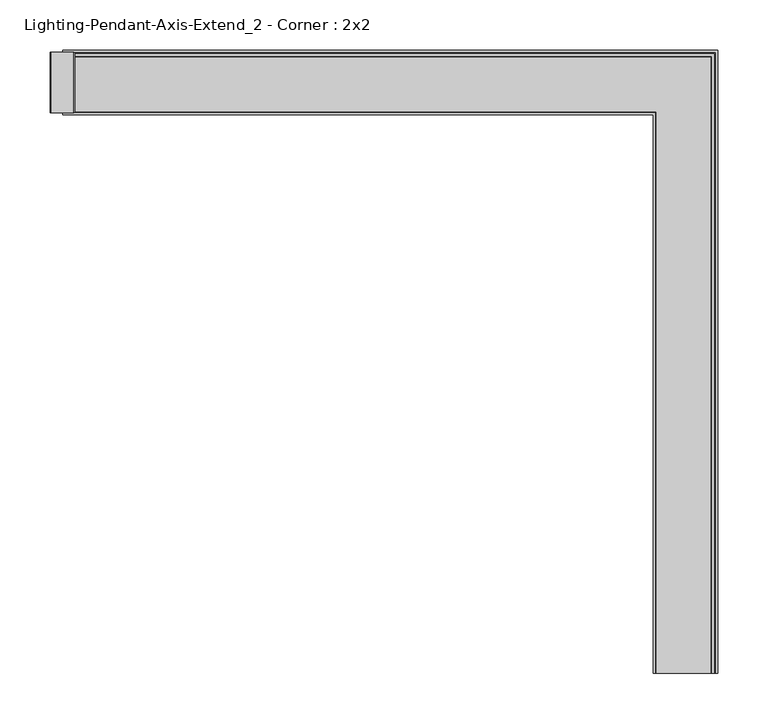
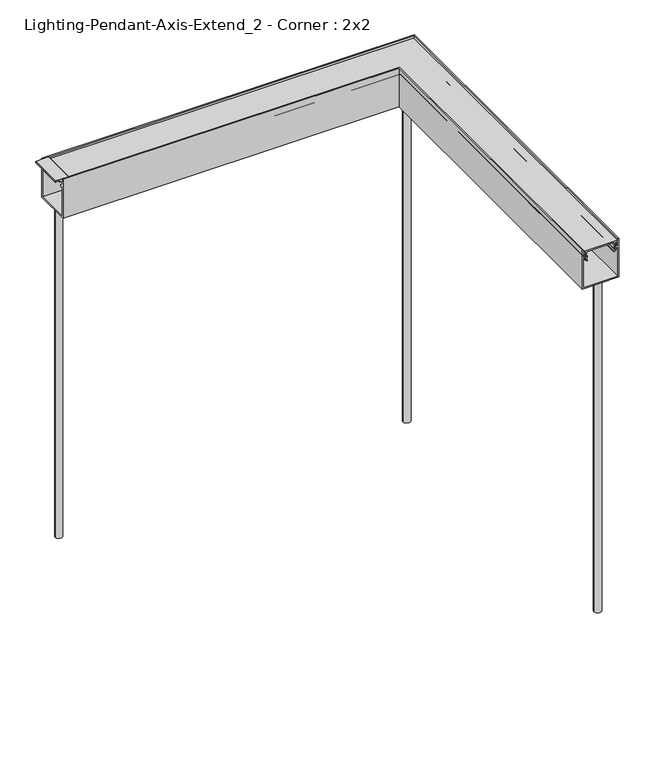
"""IFC4 building model written with IfcOpenShell, lengths in millimetres: light fixture geometry, Lighting-Pendant-Axis-Extend_2 - Corner : 2x2."""

from ifc_helpers import new_model, si_unit, frame, origin, place, context, project, spatial, polyline, circle_curve, ellipse_curve, outline, extrude, source, transform, mapped, element, save
from ifc_brep_helpers import plane_surface, cylinder_surface, revolved_surface, advanced_brep


def lighting_pendant_axis_extend_2_corner_2x2_d5f9903d(model_context):
    return source(origin(), model_context, "Body", "SolidModel", [
        advanced_brep(
        [(311.15, -577.596, 609.6), (298.45, -577.596, 609.6), (304.8, -577.596, 609.6), (311.15, -577.596, 0.0), (298.45, -577.596, 0.0), (304.8, -577.596, 0.0)],
        [
            (0, 1, circle_curve(frame((304.8, -577.596, 609.6), z_axis=(0.0, 0.0, 1.0), x_axis=(-1.0, 0.0, 0.0)), 6.35)),
            (1, 2),
            (2, 0),
            (1, 0, circle_curve(frame((304.8, -577.596, 609.6), z_axis=(0.0, 0.0, 1.0), x_axis=(-1.0, 0.0, 0.0)), 6.35)),
            (3, 4, circle_curve(frame((304.8, -577.596, 0.0), z_axis=(0.0, 0.0, 1.0), x_axis=(-1.0, 0.0, 0.0)), 6.35)),
            (4, 1),
            (0, 3),
            (4, 3, circle_curve(frame((304.8, -577.596, 0.0), z_axis=(0.0, 0.0, 1.0), x_axis=(-1.0, 0.0, 0.0)), 6.35)),
            (5, 4),
            (3, 5),
        ],
        [
            plane_surface(frame((304.8, -577.596, 609.6), z_axis=(0.0, 0.0, 1.0), x_axis=(-1.0, 0.0, 0.0))),
            cylinder_surface(frame((304.8, -577.596, 2913.8581012), z_axis=(0.0, 0.0, -1.0), x_axis=(-1.0, 0.0, 0.0)), 6.35),
            plane_surface(frame((304.8, -577.596, 0.0), z_axis=(0.0, 0.0, -1.0), x_axis=(-1.0, 0.0, 0.0))),
        ],
        [
            (0, [[1, 2, 3]]),
            (0, [[4, -3, -2]]),
            (1, [[5, 6, -1, 7]]),
            (1, [[8, -7, -4, -6]]),
            (2, [[9, -5, 10]]),
            (2, [[-10, -8, -9]]),
        ],
    ),
        extrude(outline(polyline([(679.9357861, -301.8536), (681.0375, -302.7781437), (681.0375, -325.1352563), (679.9357861, -326.0598), (678.46575, -326.0598), (678.46575, -325.26605), (679.2595, -325.26605), (679.2595, -318.7954), (676.4532981, -318.7954), (676.4532981, -309.118), (679.2595, -309.118), (679.2595, -302.64735), (678.46575, -302.64735), (678.46575, -301.8536), (679.9357861, -301.8536)])), frame((0.0, -29.972, 0.0), z_axis=(0.0, 1.0, 0.0), x_axis=(0.0, 0.0, 1.0)), (0.0, 0.0, 1.0), 59.944),
        advanced_brep(
        [(311.15, 0.0, 609.6), (298.45, 0.0, 609.6), (304.8, 0.0, 609.6), (311.15, 0.0, 0.0), (298.45, 0.0, 0.0), (304.8, 0.0, 0.0)],
        [
            (0, 1, circle_curve(frame((304.8, 0.0, 609.6), z_axis=(0.0, 0.0, 1.0), x_axis=(-1.0, 0.0, 0.0)), 6.35)),
            (1, 2),
            (2, 0),
            (1, 0, circle_curve(frame((304.8, 0.0, 609.6), z_axis=(0.0, 0.0, 1.0), x_axis=(-1.0, 0.0, 0.0)), 6.35)),
            (3, 4, circle_curve(frame((304.8, 0.0, 0.0), z_axis=(0.0, 0.0, 1.0), x_axis=(-1.0, 0.0, 0.0)), 6.35)),
            (4, 1),
            (0, 3),
            (4, 3, circle_curve(frame((304.8, 0.0, 0.0), z_axis=(0.0, 0.0, 1.0), x_axis=(-1.0, 0.0, 0.0)), 6.35)),
            (5, 4),
            (3, 5),
        ],
        [
            plane_surface(frame((304.8, 0.0, 609.6), z_axis=(0.0, 0.0, 1.0), x_axis=(-1.0, 0.0, 0.0))),
            cylinder_surface(frame((304.8, 0.0, 2913.8581012), z_axis=(0.0, 0.0, -1.0), x_axis=(-1.0, 0.0, 0.0)), 6.35),
            plane_surface(frame((304.8, 0.0, 0.0), z_axis=(0.0, 0.0, -1.0), x_axis=(-1.0, 0.0, 0.0))),
        ],
        [
            (0, [[1, 2, 3]]),
            (0, [[4, -3, -2]]),
            (1, [[5, 6, -1, 7]]),
            (1, [[8, -7, -4, -6]]),
            (2, [[9, -5, 10]]),
            (2, [[-10, -8, -9]]),
        ],
    ),
        advanced_brep(
        [(-296.672, 0.0, 609.6), (-309.372, 0.0, 609.6), (-303.022, 0.0, 609.6), (-296.672, 0.0, 0.0), (-309.372, 0.0, 0.0), (-303.022, 0.0, 0.0)],
        [
            (0, 1, circle_curve(frame((-303.022, 0.0, 609.6), z_axis=(0.0, 0.0, 1.0), x_axis=(-1.0, 0.0, 0.0)), 6.35)),
            (1, 2),
            (2, 0),
            (1, 0, circle_curve(frame((-303.022, 0.0, 609.6), z_axis=(0.0, 0.0, 1.0), x_axis=(-1.0, 0.0, 0.0)), 6.35)),
            (3, 4, circle_curve(frame((-303.022, 0.0, 0.0), z_axis=(0.0, 0.0, 1.0), x_axis=(-1.0, 0.0, 0.0)), 6.35)),
            (4, 1),
            (0, 3),
            (4, 3, circle_curve(frame((-303.022, 0.0, 0.0), z_axis=(0.0, 0.0, 1.0), x_axis=(-1.0, 0.0, 0.0)), 6.35)),
            (5, 4),
            (3, 5),
        ],
        [
            plane_surface(frame((-303.022, 0.0, 609.6), z_axis=(0.0, 0.0, 1.0), x_axis=(-1.0, 0.0, 0.0))),
            cylinder_surface(frame((-303.022, 0.0, 2913.8581012), z_axis=(0.0, 0.0, -1.0), x_axis=(-1.0, 0.0, 0.0)), 6.35),
            plane_surface(frame((-303.022, 0.0, 0.0), z_axis=(0.0, 0.0, -1.0), x_axis=(-1.0, 0.0, 0.0))),
        ],
        [
            (0, [[1, 2, 3]]),
            (0, [[4, -3, -2]]),
            (1, [[5, 6, -1, 7]]),
            (1, [[8, -7, -4, -6]]),
            (2, [[9, -5, 10]]),
            (2, [[-10, -8, -9]]),
        ],
    ),
        advanced_brep(
        [(-304.8, -24.1727262, 676.1479991), (-304.8, -24.5114181, 669.6853737), (-304.8, -25.3818814, 663.0794903), (-304.8, -24.5665956, 661.5817575), (-304.8, -23.2119066, 660.3823555), (-304.8, -24.192808, 659.0543369), (-304.8, -25.7659952, 660.4471908), (-304.8, -27.1108807, 664.27776), (-304.8, -25.4753941, 668.3169658), (-304.8, -26.1394859, 670.1661789), (-304.8, -25.825992, 676.1479991), (-304.8, -28.829, 676.1479991), (-304.8, -28.829, 678.053), (-304.8, 28.829, 678.053), (-304.8, 28.829, 676.1479991), (-304.8, 25.825992, 676.1479991), (-304.8, 26.1394859, 670.1661789), (-304.8, 25.4753941, 668.3169658), (-304.8, 27.1108807, 664.27776), (-304.8, 25.7659952, 660.4471908), (-304.8, 24.192808, 659.0543369), (-304.8, 23.2119066, 660.3823555), (-304.8, 24.5665956, 661.5817575), (-304.8, 25.3818814, 663.0794903), (-304.8, 24.5114181, 669.6853737), (-304.8, 24.1727262, 676.1479991), (280.6272738, -586.7527, 676.1479991), (328.9727262, -586.7527, 676.1479991), (329.3114181, -586.7527, 669.6853737), (330.1818814, -586.7527, 663.0794903), (329.3665956, -586.7527, 661.5817575), (328.0119066, -586.7527, 660.3823555), (328.992808, -586.7527, 659.0543369), (330.5659952, -586.7527, 660.4471908), (331.9108807, -586.7527, 664.27776), (330.2753941, -586.7527, 668.3169658), (330.9394859, -586.7527, 670.1661789), (330.625992, -586.7527, 676.1479991), (333.629, -586.7527, 676.1479991), (333.629, -586.7527, 678.053), (275.971, -586.7527, 678.053), (275.971, -586.7527, 676.1479991), (278.974008, -586.7527, 676.1479991), (278.6605141, -586.7527, 670.1661789), (279.3246059, -586.7527, 668.3169658), (277.6891193, -586.7527, 664.27776), (279.0340048, -586.7527, 660.4471908), (280.607192, -586.7527, 659.0543369), (281.5880934, -586.7527, 660.3823555), (280.2334044, -586.7527, 661.5817575), (279.4181186, -586.7527, 663.0794903), (280.2885819, -586.7527, 669.6853737), (280.6272738, -24.1727262, 676.1479991), (280.2885819, -24.5114181, 669.6853737), (279.4181186, -25.3818814, 663.0794903), (280.2334044, -24.5665956, 661.5817575), (281.5880934, -23.2119066, 660.3823555), (280.607192, -24.192808, 659.0543369), (279.0340048, -25.7659952, 660.4471908), (277.6891193, -27.1108807, 664.27776), (279.3246059, -25.4753941, 668.3169658), (278.6605141, -26.1394859, 670.1661789), (278.974008, -25.825992, 676.1479991), (275.971, -28.829, 676.1479991), (275.971, -28.829, 678.053), (333.629, 28.829, 678.053), (333.629, 28.829, 676.1479991), (330.625992, 25.825992, 676.1479991), (330.9394859, 26.1394859, 670.1661789), (330.2753941, 25.4753941, 668.3169658), (331.9108807, 27.1108807, 664.27776), (330.5659952, 25.7659952, 660.4471908), (328.992808, 24.192808, 659.0543369), (328.0119066, 23.2119066, 660.3823555), (329.3665956, 24.5665956, 661.5817575), (330.1818814, 25.3818814, 663.0794903), (329.3114181, 24.5114181, 669.6853737), (328.9727262, 24.1727262, 676.1479991)],
        [
            (0, 1),
            (1, 2, circle_curve(frame((-304.8, -27.2542, 666.6865), z_axis=(-1.0, 0.0, 0.0), x_axis=(0.0, 0.6748971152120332, 0.7379118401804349)), 4.064)),
            (2, 3, circle_curve(frame((-304.8, -22.149344, 663.8683457), z_axis=(1.0, 0.0, 0.0), x_axis=(0.0, -0.9714904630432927, -0.23707863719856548)), 3.3274001)),
            (3, 4, circle_curve(frame((-304.8, -17.1303177, 668.6160708), z_axis=(1.0, 0.0, 0.0), x_axis=(0.0, -0.7264901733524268, -0.68717685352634)), 10.2362001)),
            (4, 5, circle_curve(frame((-304.8, -23.7023573, 659.7183462), z_axis=(-1.0, 0.0, 0.0), x_axis=(0.0, 0.5941256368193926, 0.8043722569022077)), 0.8255)),
            (5, 6, circle_curve(frame((-304.8, -17.1303169, 668.6160717), z_axis=(-1.0, 0.0, 0.0), x_axis=(0.0, -0.594125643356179, -0.8043722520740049)), 11.8872013)),
            (6, 7, circle_curve(frame((-304.8, -22.149344, 663.8683457), z_axis=(-1.0, 0.0, 0.0), x_axis=(0.0, -0.7264685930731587, -0.6871996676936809)), 4.9784001)),
            (7, 8, circle_curve(frame((-304.8, -27.2542, 666.6865), z_axis=(1.0, 0.0, 0.0), x_axis=(0.0, 0.05939464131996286, -0.9982345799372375)), 2.413)),
            (8, 9, circle_curve(frame((-304.8, -23.6029669, 670.0332456), z_axis=(-1.0, 0.0, 0.0), x_axis=(0.0, -0.7371760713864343, -0.675700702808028)), 2.54)),
            (9, 10),
            (10, 11),
            (11, 12),
            (12, 13),
            (13, 14),
            (14, 15),
            (15, 16),
            (16, 17, circle_curve(frame((-304.8, 23.6029669, 670.0332456), z_axis=(-1.0, 0.0, 0.0), x_axis=(0.0, 0.9986295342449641, 0.05233596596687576)), 2.54)),
            (17, 18, circle_curve(frame((-304.8, 27.2542, 666.6865), z_axis=(1.0, 0.0, 0.0), x_axis=(0.0, -0.7371760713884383, 0.6757007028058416)), 2.413)),
            (18, 19, circle_curve(frame((-304.8, 22.149344, 663.8683457), z_axis=(-1.0, 0.0, 0.0), x_axis=(0.0, 0.9966127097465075, 0.0822381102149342)), 4.9784001)),
            (19, 20, circle_curve(frame((-304.8, 17.1303169, 668.6160717), z_axis=(-1.0, 0.0, 0.0), x_axis=(0.0, 0.7264685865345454, -0.6871996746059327)), 11.8872013)),
            (20, 21, circle_curve(frame((-304.8, 23.7023573, 659.7183462), z_axis=(-1.0, 0.0, 0.0), x_axis=(0.0, 0.5941256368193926, -0.8043722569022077)), 0.8255)),
            (21, 22, circle_curve(frame((-304.8, 17.1303177, 668.6160708), z_axis=(1.0, 0.0, 0.0), x_axis=(0.0, 0.5941256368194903, -0.8043722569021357)), 10.2362001)),
            (22, 23, circle_curve(frame((-304.8, 22.149344, 663.8683457), z_axis=(1.0, 0.0, 0.0), x_axis=(0.0, 0.7265349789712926, -0.6871294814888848)), 3.3274001)),
            (23, 24, circle_curve(frame((-304.8, 27.2542, 666.6865), z_axis=(-1.0, 0.0, 0.0), x_axis=(0.0, -0.46070831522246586, -0.8875516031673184)), 4.064)),
            (24, 25),
            (25, 0),
            (26, 27),
            (27, 28),
            (28, 29, circle_curve(frame((332.0542, -586.7527, 666.6865), z_axis=(0.0, -1.0, 0.0), x_axis=(-0.46070831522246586, 0.0, -0.8875516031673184)), 4.064)),
            (29, 30, circle_curve(frame((326.949344, -586.7527, 663.8683457), z_axis=(0.0, 1.0, 0.0), x_axis=(0.7265349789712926, 0.0, -0.6871294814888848)), 3.3274001)),
            (30, 31, circle_curve(frame((321.9303177, -586.7527, 668.6160708), z_axis=(0.0, 1.0, 0.0), x_axis=(0.5941256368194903, 0.0, -0.8043722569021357)), 10.2362001)),
            (31, 32, circle_curve(frame((328.5023573, -586.7527, 659.7183462), z_axis=(0.0, -1.0, 0.0), x_axis=(0.5941256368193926, 0.0, -0.8043722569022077)), 0.8255)),
            (32, 33, circle_curve(frame((321.9303169, -586.7527, 668.6160717), z_axis=(0.0, -1.0, 0.0), x_axis=(0.7264685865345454, 0.0, -0.6871996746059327)), 11.8872013)),
            (33, 34, circle_curve(frame((326.949344, -586.7527, 663.8683457), z_axis=(0.0, -1.0, 0.0), x_axis=(0.9966127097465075, 0.0, 0.0822381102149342)), 4.9784001)),
            (34, 35, circle_curve(frame((332.0542, -586.7527, 666.6865), z_axis=(0.0, 1.0, 0.0), x_axis=(-0.7371760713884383, 0.0, 0.6757007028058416)), 2.413)),
            (35, 36, circle_curve(frame((328.4029669, -586.7527, 670.0332456), z_axis=(0.0, -1.0, 0.0), x_axis=(0.9986295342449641, 0.0, 0.05233596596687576)), 2.54)),
            (36, 37),
            (37, 38),
            (38, 39),
            (39, 40),
            (40, 41),
            (41, 42),
            (42, 43),
            (43, 44, circle_curve(frame((281.1970331, -586.7527, 670.0332456), z_axis=(0.0, -1.0, 0.0), x_axis=(-0.7371760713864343, 0.0, -0.675700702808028)), 2.54)),
            (44, 45, circle_curve(frame((277.5458, -586.7527, 666.6865), z_axis=(0.0, 1.0, 0.0), x_axis=(0.05939464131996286, 0.0, -0.9982345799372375)), 2.413)),
            (45, 46, circle_curve(frame((282.650656, -586.7527, 663.8683457), z_axis=(0.0, -1.0, 0.0), x_axis=(-0.7264685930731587, 0.0, -0.6871996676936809)), 4.9784001)),
            (46, 47, circle_curve(frame((287.6696831, -586.7527, 668.6160717), z_axis=(0.0, -1.0, 0.0), x_axis=(-0.594125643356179, 0.0, -0.8043722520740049)), 11.8872013)),
            (47, 48, circle_curve(frame((281.0976427, -586.7527, 659.7183462), z_axis=(0.0, -1.0, 0.0), x_axis=(0.5941256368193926, 0.0, 0.8043722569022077)), 0.8255)),
            (48, 49, circle_curve(frame((287.6696823, -586.7527, 668.6160708), z_axis=(0.0, 1.0, 0.0), x_axis=(-0.7264901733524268, 0.0, -0.68717685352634)), 10.2362001)),
            (49, 50, circle_curve(frame((282.650656, -586.7527, 663.8683457), z_axis=(0.0, 1.0, 0.0), x_axis=(-0.9714904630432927, 0.0, -0.23707863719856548)), 3.3274001)),
            (50, 51, circle_curve(frame((277.5458, -586.7527, 666.6865), z_axis=(0.0, -1.0, 0.0), x_axis=(0.6748971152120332, 0.0, 0.7379118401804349)), 4.064)),
            (51, 26),
            (0, 52),
            (52, 53),
            (53, 1),
            (53, 54, ellipse_curve(frame((277.5458, -27.2542, 666.6865), z_axis=(-0.7071067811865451, 0.7071067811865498, 0.0), x_axis=(-0.70710678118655, -0.7071067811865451, 0.0)), 5.7473639, 4.064)),
            (54, 2),
            (54, 55, ellipse_curve(frame((282.650656, -22.149344, 663.8683457), z_axis=(0.7071067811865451, -0.7071067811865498, 0.0), x_axis=(0.70710678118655, 0.7071067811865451, 0.0)), 4.7056543, 3.3274001)),
            (55, 3),
            (55, 56, ellipse_curve(frame((287.6696823, -17.1303177, 668.6160708), z_axis=(0.7071067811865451, -0.7071067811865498, 0.0), x_axis=(0.70710678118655, 0.7071067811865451, 0.0)), 14.476173, 10.2362001)),
            (56, 4),
            (56, 57, ellipse_curve(frame((281.0976427, -23.7023573, 659.7183462), z_axis=(-0.7071067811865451, 0.7071067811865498, 0.0), x_axis=(-0.70710678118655, -0.7071067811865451, 0.0)), 1.1674333, 0.8255)),
            (57, 5),
            (57, 58, ellipse_curve(frame((287.6696831, -17.1303169, 668.6160717), z_axis=(-0.7071067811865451, 0.7071067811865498, 0.0), x_axis=(-0.70710678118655, -0.7071067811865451, 0.0)), 16.8110412, 11.8872013)),
            (58, 6),
            (58, 59, ellipse_curve(frame((282.650656, -22.149344, 663.8683457), z_axis=(-0.7071067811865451, 0.7071067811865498, 0.0), x_axis=(-0.70710678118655, -0.7071067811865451, 0.0)), 7.0405209, 4.9784001)),
            (59, 7),
            (59, 60, ellipse_curve(frame((277.5458, -27.2542, 666.6865), z_axis=(0.7071067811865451, -0.7071067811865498, 0.0), x_axis=(0.70710678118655, 0.7071067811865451, 0.0)), 3.4124973, 2.413)),
            (60, 8),
            (60, 61, ellipse_curve(frame((281.1970331, -23.6029669, 670.0332456), z_axis=(-0.7071067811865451, 0.7071067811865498, 0.0), x_axis=(-0.70710678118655, -0.7071067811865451, 0.0)), 3.5921024, 2.54)),
            (61, 9),
            (61, 62),
            (62, 10),
            (62, 42),
            (41, 63),
            (63, 11),
            (63, 64),
            (64, 12),
            (64, 40),
            (39, 65),
            (65, 13),
            (65, 66),
            (66, 14),
            (66, 38),
            (37, 67),
            (67, 15),
            (67, 68),
            (68, 16),
            (68, 69, ellipse_curve(frame((328.4029669, 23.6029669, 670.0332456), z_axis=(-0.7071067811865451, 0.7071067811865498, 0.0), x_axis=(-0.70710678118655, -0.7071067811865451, 0.0)), 3.5921024, 2.54)),
            (69, 17),
            (69, 70, ellipse_curve(frame((332.0542, 27.2542, 666.6865), z_axis=(0.7071067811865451, -0.7071067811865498, 0.0), x_axis=(0.70710678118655, 0.7071067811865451, 0.0)), 3.4124973, 2.413)),
            (70, 18),
            (70, 71, ellipse_curve(frame((326.949344, 22.149344, 663.8683457), z_axis=(-0.7071067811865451, 0.7071067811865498, 0.0), x_axis=(-0.70710678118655, -0.7071067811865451, 0.0)), 7.0405209, 4.9784001)),
            (71, 19),
            (71, 72, ellipse_curve(frame((321.9303169, 17.1303169, 668.6160717), z_axis=(-0.7071067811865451, 0.7071067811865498, 0.0), x_axis=(-0.70710678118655, -0.7071067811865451, 0.0)), 16.8110412, 11.8872013)),
            (72, 20),
            (72, 73, ellipse_curve(frame((328.5023573, 23.7023573, 659.7183462), z_axis=(-0.7071067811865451, 0.7071067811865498, 0.0), x_axis=(-0.70710678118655, -0.7071067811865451, 0.0)), 1.1674333, 0.8255)),
            (73, 21),
            (73, 74, ellipse_curve(frame((321.9303177, 17.1303177, 668.6160708), z_axis=(0.7071067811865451, -0.7071067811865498, 0.0), x_axis=(0.70710678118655, 0.7071067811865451, 0.0)), 14.476173, 10.2362001)),
            (74, 22),
            (74, 75, ellipse_curve(frame((326.949344, 22.149344, 663.8683457), z_axis=(0.7071067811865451, -0.7071067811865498, 0.0), x_axis=(0.70710678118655, 0.7071067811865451, 0.0)), 4.7056543, 3.3274001)),
            (75, 23),
            (75, 76, ellipse_curve(frame((332.0542, 27.2542, 666.6865), z_axis=(-0.7071067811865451, 0.7071067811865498, 0.0), x_axis=(-0.70710678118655, -0.7071067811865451, 0.0)), 5.7473639, 4.064)),
            (76, 24),
            (76, 77),
            (77, 25),
            (77, 27),
            (26, 52),
            (51, 53),
            (50, 54),
            (49, 55),
            (48, 56),
            (47, 57),
            (46, 58),
            (45, 59),
            (44, 60),
            (43, 61),
            (36, 68),
            (35, 69),
            (34, 70),
            (33, 71),
            (32, 72),
            (31, 73),
            (30, 74),
            (29, 75),
            (28, 76),
        ],
        [
            plane_surface(frame((-304.8, 0.0, 0.0), z_axis=(-1.0, 0.0, 0.0), x_axis=(0.0, 0.0, 1.0))),
            plane_surface(frame((304.8, -586.7527, 0.0), z_axis=(0.0, -1.0, 0.0), x_axis=(0.0, 0.0, 1.0))),
            plane_surface(frame((-304.8, -24.1727262, 676.1479991), z_axis=(0.0, 0.9986295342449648, -0.05233596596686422), x_axis=(1.0, 0.0, 0.0))),
            cylinder_surface(frame((-304.8, -27.2542, 666.6865), z_axis=(-1.0, 0.0, 0.0), x_axis=(0.0, 0.6748971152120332, 0.7379118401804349)), 4.064),
            revolved_surface(polyline([(285.97805606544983, -25.3818814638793, 663.0794902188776), (-304.8, -25.3818814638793, 663.0794902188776)]), (-304.8, -22.149344, 663.8683457), (1.0000000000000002, 0.0, 0.0)),
            revolved_surface(polyline([(297.9058823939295, -24.566816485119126, 661.581991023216), (-304.8, -24.566816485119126, 661.581991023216)]), (-304.8, -17.1303177, 668.6160708), (1.0, 0.0, 0.0)),
            cylinder_surface(frame((-304.8, -23.7023573, 659.7183462), z_axis=(-1.0, 0.0, 0.0), x_axis=(0.0, 0.5941256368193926, 0.8043722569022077)), 0.8255),
            cylinder_surface(frame((-304.8, -17.1303169, 668.6160717), z_axis=(-1.0, 0.0, 0.0), x_axis=(0.0, -0.594125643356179, -0.8043722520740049)), 11.8872013),
            cylinder_surface(frame((-304.8, -22.149344, 663.8683457), z_axis=(-1.0, 0.0, 0.0), x_axis=(0.0, -0.7264685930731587, -0.6871996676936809)), 4.9784001),
            revolved_surface(polyline([(279.95879998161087, -27.11088073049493, 664.2777599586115), (-304.8, -27.11088073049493, 664.2777599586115)]), (-304.8, -27.2542, 666.6865), (1.0, 0.0, 0.0)),
            cylinder_surface(frame((-304.8, -23.6029669, 670.0332456), z_axis=(-1.0, 0.0, 0.0), x_axis=(0.0, -0.7371760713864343, -0.675700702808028)), 2.54),
            plane_surface(frame((-304.8, -26.1394859, 670.1661789), z_axis=(0.0, -0.9986295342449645, 0.05233596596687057), x_axis=(1.0, 0.0, 0.0))),
            plane_surface(frame((-304.8, -25.825992, 676.1479991), z_axis=(0.0, 0.0, -1.0), x_axis=(1.0, 0.0, 0.0))),
            plane_surface(frame((-304.8, -28.829, 676.1479991), z_axis=(0.0, -1.0, 0.0), x_axis=(1.0, 0.0, 0.0))),
            plane_surface(frame((-304.8, -28.829, 678.053), z_axis=(0.0, 0.0, 1.0), x_axis=(1.0, 0.0, 0.0))),
            plane_surface(frame((-304.8, 28.829, 678.053), z_axis=(0.0, 1.0, 0.0), x_axis=(1.0, 0.0, 0.0))),
            plane_surface(frame((-304.8, 28.829, 676.1479991), z_axis=(0.0, 0.0, -1.0), x_axis=(1.0, 0.0, 0.0))),
            plane_surface(frame((-304.8, 25.825992, 676.1479991), z_axis=(0.0, 0.9986295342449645, 0.05233596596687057), x_axis=(1.0, 0.0, 0.0))),
            cylinder_surface(frame((-304.8, 23.6029669, 670.0332456), z_axis=(-1.0, 0.0, 0.0), x_axis=(0.0, 0.9986295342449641, 0.05233596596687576)), 2.54),
            revolved_surface(polyline([(334.46719998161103, 25.4753941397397, 668.3169657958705), (-304.8, 25.4753941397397, 668.3169657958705)]), (-304.8, 27.2542, 666.6865), (1.0000000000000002, 0.0, 0.0)),
            cylinder_surface(frame((-304.8, 22.149344, 663.8683457), z_axis=(-1.0000000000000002, 0.0, 0.0), x_axis=(0.0, 0.9966127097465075, 0.0822381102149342)), 4.9784001),
            cylinder_surface(frame((-304.8, 17.1303169, 668.6160717), z_axis=(-1.0, 0.0, 0.0), x_axis=(0.0, 0.7264685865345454, -0.6871996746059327)), 11.8872013),
            cylinder_surface(frame((-304.8, 23.7023573, 659.7183462), z_axis=(-1.0, 0.0, 0.0), x_axis=(0.0, 0.5941256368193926, -0.8043722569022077)), 0.8255),
            revolved_surface(polyline([(332.1665177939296, 23.21190660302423, 660.3823554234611), (-304.8, 23.21190660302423, 660.3823554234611)]), (-304.8, 17.1303177, 668.6160708), (1.0, 0.0, 0.0)),
            revolved_surface(polyline([(330.2767440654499, 24.566816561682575, 661.5819909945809), (-304.8, 24.566816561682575, 661.5819909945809)]), (-304.8, 22.149344, 663.8683457), (1.0000000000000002, 0.0, 0.0)),
            cylinder_surface(frame((-304.8, 27.2542, 666.6865), z_axis=(-1.0, 0.0, 0.0), x_axis=(0.0, -0.46070831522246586, -0.8875516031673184)), 4.064),
            plane_surface(frame((-304.8, 24.5114181, 669.6853737), z_axis=(0.0, -0.9986295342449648, -0.05233596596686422), x_axis=(1.0, 0.0, 0.0))),
            plane_surface(frame((-304.8, 24.1727262, 676.1479991), z_axis=(0.0, 0.0, -1.0), x_axis=(1.0, 0.0, 0.0))),
            plane_surface(frame((280.6272738, -24.1727262, 676.1479991), z_axis=(0.9986295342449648, 0.0, -0.05233596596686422), x_axis=(0.0, -1.0, 0.0))),
            cylinder_surface(frame((277.5458, 0.0, 666.6865), z_axis=(0.0, 1.0, 0.0), x_axis=(0.6748971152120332, 0.0, 0.7379118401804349)), 4.064),
            revolved_surface(polyline([(279.41811853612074, -586.7527000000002, 663.0794902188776), (279.41811853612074, -18.82194393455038, 663.0794902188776)]), (282.650656, 0.0, 663.8683457), (0.0, -1.0000000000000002, 0.0)),
            revolved_surface(polyline([(280.23318351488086, -586.7527, 661.581991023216), (280.23318351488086, -6.894117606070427, 661.581991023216)]), (287.6696823, 0.0, 668.6160708), (0.0, -1.0, 0.0)),
            cylinder_surface(frame((281.0976427, 0.0, 659.7183462), z_axis=(0.0, 1.0, 0.0), x_axis=(0.5941256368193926, 0.0, 0.8043722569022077)), 0.8255),
            cylinder_surface(frame((287.6696831, 0.0, 668.6160717), z_axis=(0.0, 1.0, 0.0), x_axis=(-0.594125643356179, 0.0, -0.8043722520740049)), 11.8872013),
            cylinder_surface(frame((282.650656, 0.0, 663.8683457), z_axis=(0.0, 1.0, 0.0), x_axis=(-0.7264685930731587, 0.0, -0.6871996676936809)), 4.9784001),
            revolved_surface(polyline([(277.68911926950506, -586.7527, 664.2777599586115), (277.68911926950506, -24.841200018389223, 664.2777599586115)]), (277.5458, 0.0, 666.6865), (0.0, -1.0, 0.0)),
            cylinder_surface(frame((281.1970331, 0.0, 670.0332456), z_axis=(0.0, 1.0, 0.0), x_axis=(-0.7371760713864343, 0.0, -0.675700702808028)), 2.54),
            plane_surface(frame((278.6605141, -26.1394859, 670.1661789), z_axis=(-0.9986295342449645, 0.0, 0.05233596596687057), x_axis=(0.0, -1.0, 0.0))),
            plane_surface(frame((275.971, -28.829, 676.1479991), z_axis=(-1.0, 0.0, 0.0), x_axis=(0.0, -1.0, 0.0))),
            plane_surface(frame((333.629, 28.829, 678.053), z_axis=(1.0, 0.0, 0.0), x_axis=(0.0, -1.0, 0.0))),
            plane_surface(frame((330.625992, 25.825992, 676.1479991), z_axis=(0.9986295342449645, 0.0, 0.05233596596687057), x_axis=(0.0, -1.0, 0.0))),
            cylinder_surface(frame((328.4029669, 0.0, 670.0332456), z_axis=(0.0, 1.0, 0.0), x_axis=(0.9986295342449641, 0.0, 0.05233596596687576)), 2.54),
            revolved_surface(polyline([(330.27539413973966, -586.7527000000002, 668.3169657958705), (330.27539413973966, 29.667199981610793, 668.3169657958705)]), (332.0542, 0.0, 666.6865), (0.0, -1.0000000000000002, 0.0)),
            cylinder_surface(frame((326.949344, 0.0, 663.8683457), z_axis=(0.0, 1.0000000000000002, 0.0), x_axis=(0.9966127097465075, 0.0, 0.0822381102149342)), 4.9784001),
            cylinder_surface(frame((321.9303169, 0.0, 668.6160717), z_axis=(0.0, 1.0, 0.0), x_axis=(0.7264685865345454, 0.0, -0.6871996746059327)), 11.8872013),
            cylinder_surface(frame((328.5023573, 0.0, 659.7183462), z_axis=(0.0, 1.0, 0.0), x_axis=(0.5941256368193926, 0.0, -0.8043722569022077)), 0.8255),
            revolved_surface(polyline([(328.0119066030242, -586.7527, 660.3823554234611), (328.0119066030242, 27.36651779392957, 660.3823554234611)]), (321.9303177, 0.0, 668.6160708), (0.0, -1.0, 0.0)),
            revolved_surface(polyline([(329.3668165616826, -586.7527000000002, 661.5819909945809), (329.3668165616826, 25.476744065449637, 661.5819909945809)]), (326.949344, 0.0, 663.8683457), (0.0, -1.0000000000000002, 0.0)),
            cylinder_surface(frame((332.0542, 0.0, 666.6865), z_axis=(0.0, 1.0, 0.0), x_axis=(-0.46070831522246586, 0.0, -0.8875516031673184)), 4.064),
            plane_surface(frame((329.3114181, 24.5114181, 669.6853737), z_axis=(-0.9986295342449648, 0.0, -0.05233596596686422), x_axis=(0.0, -1.0, 0.0))),
        ],
        [
            (0, [[1, 2, 3, 4, 5, 6, 7, 8, 9, 10, 11, 12, 13, 14, 15, 16, 17, 18, 19, 20, 21, 22, 23, 24, 25, 26]]),
            (1, [[27, 28, 29, 30, 31, 32, 33, 34, 35, 36, 37, 38, 39, 40, 41, 42, 43, 44, 45, 46, 47, 48, 49, 50, 51, 52]]),
            (2, [[-1, 53, 54, 55]]),
            (3, [[-2, -55, 56, 57]]),
            (4, [[-3, -57, 58, 59]]),
            (5, [[-4, -59, 60, 61]]),
            (6, [[-5, -61, 62, 63]]),
            (7, [[-6, -63, 64, 65]]),
            (8, [[-7, -65, 66, 67]]),
            (9, [[-8, -67, 68, 69]]),
            (10, [[-9, -69, 70, 71]]),
            (11, [[-10, -71, 72, 73]]),
            (12, [[-11, -73, 74, -42, 75, 76]]),
            (13, [[-12, -76, 77, 78]]),
            (14, [[-13, -78, 79, -40, 80, 81]]),
            (15, [[-14, -81, 82, 83]]),
            (16, [[-15, -83, 84, -38, 85, 86]]),
            (17, [[-16, -86, 87, 88]]),
            (18, [[-17, -88, 89, 90]]),
            (19, [[-18, -90, 91, 92]]),
            (20, [[-19, -92, 93, 94]]),
            (21, [[-20, -94, 95, 96]]),
            (22, [[-21, -96, 97, 98]]),
            (23, [[-22, -98, 99, 100]]),
            (24, [[-23, -100, 101, 102]]),
            (25, [[-24, -102, 103, 104]]),
            (26, [[-25, -104, 105, 106]]),
            (27, [[-26, -106, 107, -27, 108, -53]]),
            (28, [[-54, -108, -52, 109]]),
            (29, [[-56, -109, -51, 110]]),
            (30, [[-58, -110, -50, 111]]),
            (31, [[-60, -111, -49, 112]]),
            (32, [[-62, -112, -48, 113]]),
            (33, [[-64, -113, -47, 114]]),
            (34, [[-66, -114, -46, 115]]),
            (35, [[-68, -115, -45, 116]]),
            (36, [[-70, -116, -44, 117]]),
            (37, [[-72, -117, -43, -74]]),
            (38, [[-77, -75, -41, -79]]),
            (39, [[-82, -80, -39, -84]]),
            (40, [[-87, -85, -37, 118]]),
            (41, [[-89, -118, -36, 119]]),
            (42, [[-91, -119, -35, 120]]),
            (43, [[-93, -120, -34, 121]]),
            (44, [[-95, -121, -33, 122]]),
            (45, [[-97, -122, -32, 123]]),
            (46, [[-99, -123, -31, 124]]),
            (47, [[-101, -124, -30, 125]]),
            (48, [[-103, -125, -29, 126]]),
            (49, [[-105, -126, -28, -107]]),
        ],
    ),
        advanced_brep(
        [(-313.9567, -29.972, 666.1277), (-313.9567, -29.972, 611.632), (-313.9567, 29.972, 611.632), (-313.9567, 29.972, 666.1277), (-313.9567, 28.1325797, 666.1277), (-313.9567, 25.8730546, 664.8231626), (-313.9567, 24.6896516, 667.0783682), (-313.9567, 28.067, 669.9123), (-313.9567, 28.067, 668.1597), (-313.9567, 29.972, 668.1597), (-313.9567, 29.972, 674.6875), (-313.9567, 28.067, 674.6875), (-313.9567, 28.067, 673.1635), (-313.9567, 26.416, 673.2500252), (-313.9567, 26.416, 675.9575), (-313.9567, 29.972, 675.9575), (-313.9567, 29.972, 681.0375), (-313.9567, 32.004, 681.0375), (-313.9567, 32.004, 609.6), (-313.9567, -32.004, 609.6), (-313.9567, -32.004, 681.0375), (-313.9567, -29.972, 681.0375), (-313.9567, -29.972, 675.9575), (-313.9567, -26.416, 675.9575), (-313.9567, -26.416, 673.2500252), (-313.9567, -28.067, 673.1635), (-313.9567, -28.067, 674.6875), (-313.9567, -29.972, 674.6875), (-313.9567, -29.972, 668.1597), (-313.9567, -28.067, 668.1597), (-313.9567, -28.067, 669.9123), (-313.9567, -24.6896516, 667.0783682), (-313.9567, -25.8730546, 664.8231626), (-313.9567, -28.1325797, 666.1277), (274.828, -586.7527, 666.1277), (276.6674203, -586.7527, 666.1277), (278.9269454, -586.7527, 664.8231626), (280.1103484, -586.7527, 667.0783682), (276.733, -586.7527, 669.9123), (276.733, -586.7527, 668.1597), (274.828, -586.7527, 668.1597), (274.828, -586.7527, 674.6875), (276.733, -586.7527, 674.6875), (276.733, -586.7527, 673.1635), (278.384, -586.7527, 673.2500252), (278.384, -586.7527, 675.9575), (274.828, -586.7527, 675.9575), (274.828, -586.7527, 681.0375), (272.796, -586.7527, 681.0375), (272.796, -586.7527, 609.6), (336.804, -586.7527, 609.6), (336.804, -586.7527, 681.0375), (334.772, -586.7527, 681.0375), (334.772, -586.7527, 675.9575), (331.216, -586.7527, 675.9575), (331.216, -586.7527, 673.2500252), (332.867, -586.7527, 673.1635), (332.867, -586.7527, 674.6875), (334.772, -586.7527, 674.6875), (334.772, -586.7527, 668.1597), (332.867, -586.7527, 668.1597), (332.867, -586.7527, 669.9123), (329.4896516, -586.7527, 667.0783682), (330.6730546, -586.7527, 664.8231626), (332.9325797, -586.7527, 666.1277), (334.772, -586.7527, 666.1277), (334.772, -586.7527, 611.632), (274.828, -586.7527, 611.632), (274.828, -29.972, 666.1277), (274.828, -29.972, 611.632), (334.772, 29.972, 611.632), (334.772, 29.972, 666.1277), (332.9325797, 28.1325797, 666.1277), (330.6730546, 25.8730546, 664.8231626), (329.4896516, 24.6896516, 667.0783682), (332.867, 28.067, 669.9123), (332.867, 28.067, 668.1597), (334.772, 29.972, 668.1597), (334.772, 29.972, 674.6875), (332.867, 28.067, 674.6875), (332.867, 28.067, 673.1635), (331.216, 26.416, 673.2500252), (331.216, 26.416, 675.9575), (334.772, 29.972, 675.9575), (334.772, 29.972, 681.0375), (336.804, 32.004, 681.0375), (336.804, 32.004, 609.6), (272.796, -32.004, 609.6), (272.796, -32.004, 681.0375), (274.828, -29.972, 681.0375), (274.828, -29.972, 675.9575), (278.384, -26.416, 675.9575), (278.384, -26.416, 673.2500252), (276.733, -28.067, 673.1635), (276.733, -28.067, 674.6875), (274.828, -29.972, 674.6875), (274.828, -29.972, 668.1597), (276.733, -28.067, 668.1597), (276.733, -28.067, 669.9123), (280.1103484, -24.6896516, 667.0783682), (278.9269454, -25.8730546, 664.8231626), (276.6674203, -28.1325797, 666.1277)],
        [
            (0, 1),
            (1, 2),
            (2, 3),
            (3, 4),
            (4, 5, circle_curve(frame((-313.9567, 26.6262297, 666.1277), z_axis=(-1.0, 0.0, 0.0), x_axis=(0.0, -0.5000000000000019, -0.8660254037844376)), 1.5063501)),
            (5, 6, circle_curve(frame((-313.9567, 27.0642121, 666.8863079), z_axis=(-1.0, 0.0, 0.0), x_axis=(0.0, -0.9967449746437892, 0.08061920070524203)), 2.382315)),
            (6, 7),
            (7, 8),
            (8, 9),
            (9, 10),
            (10, 11),
            (11, 12),
            (12, 13),
            (13, 14),
            (14, 15),
            (15, 16),
            (16, 17),
            (17, 18),
            (18, 19),
            (19, 20),
            (20, 21),
            (21, 22),
            (22, 23),
            (23, 24),
            (24, 25),
            (25, 26),
            (26, 27),
            (27, 28),
            (28, 29),
            (29, 30),
            (30, 31),
            (31, 32, circle_curve(frame((-313.9567, -27.0642121, 666.8863079), z_axis=(-1.0, 0.0, 0.0), x_axis=(0.0, 0.5000000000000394, -0.866025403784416)), 2.382315)),
            (32, 33, circle_curve(frame((-313.9567, -26.6262297, 666.1277), z_axis=(-1.0, 0.0, 0.0), x_axis=(0.0, -1.0, 0.0)), 1.5063501)),
            (33, 0),
            (34, 35),
            (35, 36, circle_curve(frame((278.1737703, -586.7527, 666.1277), z_axis=(0.0, -1.0, 0.0), x_axis=(-1.0, 0.0, 0.0)), 1.5063501)),
            (36, 37, circle_curve(frame((277.7357879, -586.7527, 666.8863079), z_axis=(0.0, -1.0, 0.0), x_axis=(0.5000000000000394, 0.0, -0.866025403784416)), 2.382315)),
            (37, 38),
            (38, 39),
            (39, 40),
            (40, 41),
            (41, 42),
            (42, 43),
            (43, 44),
            (44, 45),
            (45, 46),
            (46, 47),
            (47, 48),
            (48, 49),
            (49, 50),
            (50, 51),
            (51, 52),
            (52, 53),
            (53, 54),
            (54, 55),
            (55, 56),
            (56, 57),
            (57, 58),
            (58, 59),
            (59, 60),
            (60, 61),
            (61, 62),
            (62, 63, circle_curve(frame((331.8642121, -586.7527, 666.8863079), z_axis=(0.0, -1.0, 0.0), x_axis=(-0.9967449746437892, 0.0, 0.08061920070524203)), 2.382315)),
            (63, 64, circle_curve(frame((331.4262297, -586.7527, 666.1277), z_axis=(0.0, -1.0, 0.0), x_axis=(-0.5000000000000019, 0.0, -0.8660254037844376)), 1.5063501)),
            (64, 65),
            (65, 66),
            (66, 67),
            (67, 34),
            (0, 68),
            (68, 69),
            (69, 1),
            (69, 67),
            (66, 70),
            (70, 2),
            (70, 71),
            (71, 3),
            (71, 65),
            (64, 72),
            (72, 4),
            (72, 73, ellipse_curve(frame((331.4262297, 26.6262297, 666.1277), z_axis=(-0.7071067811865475, 0.7071067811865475, 0.0), x_axis=(-0.7071067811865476, -0.7071067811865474, 0.0)), 2.1303007, 1.5063501)),
            (73, 5),
            (73, 74, ellipse_curve(frame((331.8642121, 27.0642121, 666.8863079), z_axis=(-0.7071067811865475, 0.7071067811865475, 0.0), x_axis=(-0.7071067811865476, -0.7071067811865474, 0.0)), 3.3691022, 2.382315)),
            (74, 6),
            (74, 75),
            (75, 7),
            (75, 76),
            (76, 8),
            (76, 60),
            (59, 77),
            (77, 9),
            (77, 78),
            (78, 10),
            (78, 58),
            (57, 79),
            (79, 11),
            (79, 80),
            (80, 12),
            (80, 81),
            (81, 13),
            (81, 82),
            (82, 14),
            (82, 54),
            (53, 83),
            (83, 15),
            (83, 84),
            (84, 16),
            (84, 52),
            (51, 85),
            (85, 17),
            (85, 86),
            (86, 18),
            (86, 50),
            (49, 87),
            (87, 19),
            (87, 88),
            (88, 20),
            (88, 48),
            (47, 89),
            (89, 21),
            (89, 90),
            (90, 22),
            (90, 46),
            (45, 91),
            (91, 23),
            (91, 92),
            (92, 24),
            (92, 93),
            (93, 25),
            (93, 94),
            (94, 26),
            (94, 42),
            (41, 95),
            (95, 27),
            (95, 96),
            (96, 28),
            (96, 40),
            (39, 97),
            (97, 29),
            (97, 98),
            (98, 30),
            (98, 99),
            (99, 31),
            (99, 100, ellipse_curve(frame((277.7357879, -27.0642121, 666.8863079), z_axis=(-0.7071067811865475, 0.7071067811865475, 0.0), x_axis=(-0.7071067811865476, -0.7071067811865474, 0.0)), 3.3691022, 2.382315)),
            (100, 32),
            (100, 101, ellipse_curve(frame((278.1737703, -26.6262297, 666.1277), z_axis=(-0.7071067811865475, 0.7071067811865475, 0.0), x_axis=(-0.7071067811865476, -0.7071067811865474, 0.0)), 2.1303007, 1.5063501)),
            (101, 33),
            (101, 35),
            (34, 68),
            (63, 73),
            (62, 74),
            (61, 75),
            (56, 80),
            (55, 81),
            (44, 92),
            (43, 93),
            (38, 98),
            (37, 99),
            (36, 100),
        ],
        [
            plane_surface(frame((-313.9567, 0.0, 0.0), z_axis=(-1.0, 0.0, 0.0), x_axis=(0.0, 0.0, 1.0))),
            plane_surface(frame((304.8, -586.7527, 0.0), z_axis=(0.0, -1.0, 0.0), x_axis=(0.0, 0.0, 1.0))),
            plane_surface(frame((-313.9567, -29.972, 666.1277), z_axis=(0.0, 1.0, 0.0), x_axis=(1.0, 0.0, 0.0))),
            plane_surface(frame((-313.9567, -29.972, 611.632), z_axis=(0.0, 0.0, 1.0), x_axis=(1.0, 0.0, 0.0))),
            plane_surface(frame((-313.9567, 29.972, 611.632), z_axis=(0.0, -1.0, 0.0), x_axis=(1.0, 0.0, 0.0))),
            plane_surface(frame((-313.9567, 29.972, 666.1277), z_axis=(0.0, 0.0, -1.0), x_axis=(1.0, 0.0, 0.0))),
            cylinder_surface(frame((-313.9567, 26.6262297, 666.1277), z_axis=(-1.0, 0.0, 0.0), x_axis=(0.0, -0.5000000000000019, -0.8660254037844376)), 1.5063501),
            cylinder_surface(frame((-313.9567, 27.0642121, 666.8863079), z_axis=(-1.0000000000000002, 0.0, 0.0), x_axis=(0.0, -0.9967449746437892, 0.08061920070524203)), 2.382315),
            plane_surface(frame((-313.9567, 24.6896516, 667.0783682), z_axis=(0.0, -0.6427876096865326, 0.7660444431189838), x_axis=(1.0, 0.0, 0.0))),
            plane_surface(frame((-313.9567, 28.067, 669.9123), z_axis=(0.0, 1.0, 0.0), x_axis=(1.0, 0.0, 0.0))),
            plane_surface(frame((-313.9567, 28.067, 668.1597), z_axis=(0.0, 0.0, 1.0), x_axis=(1.0, 0.0, 0.0))),
            plane_surface(frame((-313.9567, 29.972, 668.1597), z_axis=(0.0, -1.0, 0.0), x_axis=(1.0, 0.0, 0.0))),
            plane_surface(frame((-313.9567, 29.972, 674.6875), z_axis=(0.0, 0.0, -1.0), x_axis=(1.0, 0.0, 0.0))),
            plane_surface(frame((-313.9567, 28.067, 674.6875), z_axis=(0.0, 1.0, 0.0), x_axis=(1.0, 0.0, 0.0))),
            plane_surface(frame((-313.9567, 28.067, 673.1635), z_axis=(0.0, -0.052335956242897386, -0.9986295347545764), x_axis=(1.0, 0.0, 0.0))),
            plane_surface(frame((-313.9567, 26.416, 673.2500252), z_axis=(0.0, -1.0, 0.0), x_axis=(1.0, 0.0, 0.0))),
            plane_surface(frame((-313.9567, 26.416, 675.9575), z_axis=(0.0, 0.0, 1.0), x_axis=(1.0, 0.0, 0.0))),
            plane_surface(frame((-313.9567, 29.972, 675.9575), z_axis=(0.0, -1.0, 0.0), x_axis=(1.0, 0.0, 0.0))),
            plane_surface(frame((-313.9567, 29.972, 681.0375), z_axis=(0.0, 0.0, 1.0), x_axis=(1.0, 0.0, 0.0))),
            plane_surface(frame((-313.9567, 32.004, 681.0375), z_axis=(0.0, 1.0, 0.0), x_axis=(1.0, 0.0, 0.0))),
            plane_surface(frame((-313.9567, 32.004, 609.6), z_axis=(0.0, 0.0, -1.0), x_axis=(1.0, 0.0, 0.0))),
            plane_surface(frame((-313.9567, -32.004, 609.6), z_axis=(0.0, -1.0, 0.0), x_axis=(1.0, 0.0, 0.0))),
            plane_surface(frame((-313.9567, -32.004, 681.0375), z_axis=(0.0, 0.0, 1.0), x_axis=(1.0, 0.0, 0.0))),
            plane_surface(frame((-313.9567, -29.972, 681.0375), z_axis=(0.0, 1.0, 0.0), x_axis=(1.0, 0.0, 0.0))),
            plane_surface(frame((-313.9567, -29.972, 675.9575), z_axis=(0.0, 0.0, 1.0), x_axis=(1.0, 0.0, 0.0))),
            plane_surface(frame((-313.9567, -26.416, 675.9575), z_axis=(0.0, 1.0, 0.0), x_axis=(1.0, 0.0, 0.0))),
            plane_surface(frame((-313.9567, -26.416, 673.2500252), z_axis=(0.0, 0.052335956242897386, -0.9986295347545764), x_axis=(1.0, 0.0, 0.0))),
            plane_surface(frame((-313.9567, -28.067, 673.1635), z_axis=(0.0, -1.0, 0.0), x_axis=(1.0, 0.0, 0.0))),
            plane_surface(frame((-313.9567, -28.067, 674.6875), z_axis=(0.0, 0.0, -1.0), x_axis=(1.0, 0.0, 0.0))),
            plane_surface(frame((-313.9567, -29.972, 674.6875), z_axis=(0.0, 1.0, 0.0), x_axis=(1.0, 0.0, 0.0))),
            plane_surface(frame((-313.9567, -29.972, 668.1597), z_axis=(0.0, 0.0, 1.0), x_axis=(1.0, 0.0, 0.0))),
            plane_surface(frame((-313.9567, -28.067, 668.1597), z_axis=(0.0, -1.0, 0.0), x_axis=(1.0, 0.0, 0.0))),
            plane_surface(frame((-313.9567, -28.067, 669.9123), z_axis=(0.0, 0.6427876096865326, 0.7660444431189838), x_axis=(1.0, 0.0, 0.0))),
            cylinder_surface(frame((-313.9567, -27.0642121, 666.8863079), z_axis=(-1.0, 0.0, 0.0), x_axis=(0.0, 0.5000000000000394, -0.866025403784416)), 2.382315),
            cylinder_surface(frame((-313.9567, -26.6262297, 666.1277), z_axis=(-1.0, 0.0, 0.0), x_axis=(0.0, -1.0, 0.0)), 1.5063501),
            plane_surface(frame((-313.9567, -28.1325797, 666.1277), z_axis=(0.0, 0.0, -1.0), x_axis=(1.0, 0.0, 0.0))),
            plane_surface(frame((274.828, -29.972, 666.1277), z_axis=(1.0, 0.0, 0.0), x_axis=(0.0, -1.0, 0.0))),
            plane_surface(frame((334.772, 29.972, 611.632), z_axis=(-1.0, 0.0, 0.0), x_axis=(0.0, -1.0, 0.0))),
            cylinder_surface(frame((331.4262297, 0.0, 666.1277), z_axis=(0.0, 1.0, 0.0), x_axis=(-0.5000000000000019, 0.0, -0.8660254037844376)), 1.5063501),
            cylinder_surface(frame((331.8642121, 0.0, 666.8863079), z_axis=(0.0, 1.0000000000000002, 0.0), x_axis=(-0.9967449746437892, 0.0, 0.08061920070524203)), 2.382315),
            plane_surface(frame((329.4896516, 24.6896516, 667.0783682), z_axis=(-0.6427876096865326, 0.0, 0.7660444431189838), x_axis=(0.0, -1.0, 0.0))),
            plane_surface(frame((332.867, 28.067, 669.9123), z_axis=(1.0, 0.0, 0.0), x_axis=(0.0, -1.0, 0.0))),
            plane_surface(frame((334.772, 29.972, 668.1597), z_axis=(-1.0, 0.0, 0.0), x_axis=(0.0, -1.0, 0.0))),
            plane_surface(frame((332.867, 28.067, 674.6875), z_axis=(1.0, 0.0, 0.0), x_axis=(0.0, -1.0, 0.0))),
            plane_surface(frame((332.867, 28.067, 673.1635), z_axis=(-0.052335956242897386, 0.0, -0.9986295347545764), x_axis=(0.0, -1.0, 0.0))),
            plane_surface(frame((331.216, 26.416, 673.2500252), z_axis=(-1.0, 0.0, 0.0), x_axis=(0.0, -1.0, 0.0))),
            plane_surface(frame((334.772, 29.972, 675.9575), z_axis=(-1.0, 0.0, 0.0), x_axis=(0.0, -1.0, 0.0))),
            plane_surface(frame((336.804, 32.004, 681.0375), z_axis=(1.0, 0.0, 0.0), x_axis=(0.0, -1.0, 0.0))),
            plane_surface(frame((272.796, -32.004, 609.6), z_axis=(-1.0, 0.0, 0.0), x_axis=(0.0, -1.0, 0.0))),
            plane_surface(frame((274.828, -29.972, 681.0375), z_axis=(1.0, 0.0, 0.0), x_axis=(0.0, -1.0, 0.0))),
            plane_surface(frame((278.384, -26.416, 675.9575), z_axis=(1.0, 0.0, 0.0), x_axis=(0.0, -1.0, 0.0))),
            plane_surface(frame((278.384, -26.416, 673.2500252), z_axis=(0.052335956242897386, 0.0, -0.9986295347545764), x_axis=(0.0, -1.0, 0.0))),
            plane_surface(frame((276.733, -28.067, 673.1635), z_axis=(-1.0, 0.0, 0.0), x_axis=(0.0, -1.0, 0.0))),
            plane_surface(frame((274.828, -29.972, 674.6875), z_axis=(1.0, 0.0, 0.0), x_axis=(0.0, -1.0, 0.0))),
            plane_surface(frame((276.733, -28.067, 668.1597), z_axis=(-1.0, 0.0, 0.0), x_axis=(0.0, -1.0, 0.0))),
            plane_surface(frame((276.733, -28.067, 669.9123), z_axis=(0.6427876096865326, 0.0, 0.7660444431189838), x_axis=(0.0, -1.0, 0.0))),
            cylinder_surface(frame((277.7357879, 0.0, 666.8863079), z_axis=(0.0, 1.0, 0.0), x_axis=(0.5000000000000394, 0.0, -0.866025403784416)), 2.382315),
            cylinder_surface(frame((278.1737703, 0.0, 666.1277), z_axis=(0.0, 1.0, 0.0), x_axis=(-1.0, 0.0, 0.0)), 1.5063501),
        ],
        [
            (0, [[1, 2, 3, 4, 5, 6, 7, 8, 9, 10, 11, 12, 13, 14, 15, 16, 17, 18, 19, 20, 21, 22, 23, 24, 25, 26, 27, 28, 29, 30, 31, 32, 33, 34]]),
            (1, [[35, 36, 37, 38, 39, 40, 41, 42, 43, 44, 45, 46, 47, 48, 49, 50, 51, 52, 53, 54, 55, 56, 57, 58, 59, 60, 61, 62, 63, 64, 65, 66, 67, 68]]),
            (2, [[-1, 69, 70, 71]]),
            (3, [[-2, -71, 72, -67, 73, 74]]),
            (4, [[-3, -74, 75, 76]]),
            (5, [[-4, -76, 77, -65, 78, 79]]),
            (6, [[-5, -79, 80, 81]]),
            (7, [[-6, -81, 82, 83]]),
            (8, [[-7, -83, 84, 85]]),
            (9, [[-8, -85, 86, 87]]),
            (10, [[-9, -87, 88, -60, 89, 90]]),
            (11, [[-10, -90, 91, 92]]),
            (12, [[-11, -92, 93, -58, 94, 95]]),
            (13, [[-12, -95, 96, 97]]),
            (14, [[-13, -97, 98, 99]]),
            (15, [[-14, -99, 100, 101]]),
            (16, [[-15, -101, 102, -54, 103, 104]]),
            (17, [[-16, -104, 105, 106]]),
            (18, [[-17, -106, 107, -52, 108, 109]]),
            (19, [[-18, -109, 110, 111]]),
            (20, [[-19, -111, 112, -50, 113, 114]]),
            (21, [[-20, -114, 115, 116]]),
            (22, [[-21, -116, 117, -48, 118, 119]]),
            (23, [[-22, -119, 120, 121]]),
            (24, [[-23, -121, 122, -46, 123, 124]]),
            (25, [[-24, -124, 125, 126]]),
            (26, [[-25, -126, 127, 128]]),
            (27, [[-26, -128, 129, 130]]),
            (28, [[-27, -130, 131, -42, 132, 133]]),
            (29, [[-28, -133, 134, 135]]),
            (30, [[-29, -135, 136, -40, 137, 138]]),
            (31, [[-30, -138, 139, 140]]),
            (32, [[-31, -140, 141, 142]]),
            (33, [[-32, -142, 143, 144]]),
            (34, [[-33, -144, 145, 146]]),
            (35, [[-34, -146, 147, -35, 148, -69]]),
            (36, [[-70, -148, -68, -72]]),
            (37, [[-75, -73, -66, -77]]),
            (38, [[-80, -78, -64, 149]]),
            (39, [[-82, -149, -63, 150]]),
            (40, [[-84, -150, -62, 151]]),
            (41, [[-86, -151, -61, -88]]),
            (42, [[-91, -89, -59, -93]]),
            (43, [[-96, -94, -57, 152]]),
            (44, [[-98, -152, -56, 153]]),
            (45, [[-100, -153, -55, -102]]),
            (46, [[-105, -103, -53, -107]]),
            (47, [[-110, -108, -51, -112]]),
            (48, [[-115, -113, -49, -117]]),
            (49, [[-120, -118, -47, -122]]),
            (50, [[-125, -123, -45, 154]]),
            (51, [[-127, -154, -44, 155]]),
            (52, [[-129, -155, -43, -131]]),
            (53, [[-134, -132, -41, -136]]),
            (54, [[-139, -137, -39, 156]]),
            (55, [[-141, -156, -38, 157]]),
            (56, [[-143, -157, -37, 158]]),
            (57, [[-145, -158, -36, -147]]),
        ],
    ),
    ])


if __name__ == "__main__":
    model = new_model("IFC4")
    model_context = context("Model", 3, world=origin())
    ifc_project = project(units=[si_unit("LENGTHUNIT", "METRE", prefix="MILLI")], contexts=[model_context])
    site = spatial("IfcSite", under=ifc_project)
    building = spatial("IfcBuilding", under=site)
    placement = place(None, origin())
    lighting_pendant_axis_extend_2_corner_2x2_shape = lighting_pendant_axis_extend_2_corner_2x2_d5f9903d(model_context)
    element("IfcLightFixture", 1, ObjectType="Lighting-Pendant-Axis-Extend_2 - Corner : 2x2", at=placement, inside=building, context=model_context, shape_type="MappedRepresentation", body=[
        mapped(lighting_pendant_axis_extend_2_corner_2x2_shape, transform((0.0, 0.0, 0.0), x_axis=(1.0, 0.0, 0.0), y_axis=(0.0, 1.0, 0.0), z_axis=(0.0, 0.0, 1.0))),
    ])
    save(model, "model.ifc")
